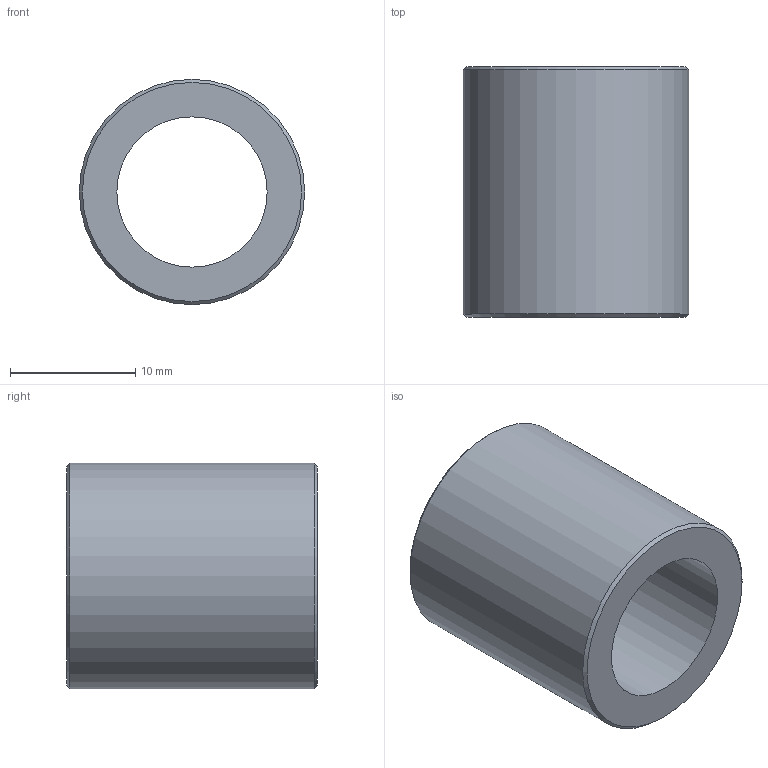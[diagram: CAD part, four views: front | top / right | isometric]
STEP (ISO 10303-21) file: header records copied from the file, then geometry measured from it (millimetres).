
FILE_DESCRIPTION(/* description */ ('','CAx-IF Rec.Pracs.---Representation and Presentation of Product Manufacturing Information (PMI)---4.0---2014-10-13'),/* implementation_level */ '2;1');
FILE_NAME(/* name */ 'Aluminium Spacer - 12mm - 20mm.step',/* time_stamp */ '2024-11-30T18:41:24+02:00',/* author */ (''),/* organization */ (''),/* preprocessor_version */ 'ST-DEVELOPER v20',/* originating_system */ 'Autodesk Translation Framework v13.20.0.188',/* authorisation */ '');
FILE_SCHEMA (('INTEGRATED_CNC_SCHEMA','AP242_MANAGED_MODEL_BASED_3D_ENGINEERING_MIM_LF { 1 0 10303 442 1 1 4 }'));
Length unit declared in the file: millimetre
Products named in the file (1): Aluminium Spacer - 12mm - 20mm
Bounding box: 18 x 20 x 18 mm (x, y, z)
Volume: 2823.9 mm3; surface area: 2151 mm2
Topology: 1 solids, 1 shells, 6 faces, 10 edges, 6 vertices
Faces by surface type: cone 2, cylinder 2, plane 2
Full cylindrical faces by diameter (mm): 12 x1, 18 x1
Entity records: 181 total; most frequent: DIRECTION 30, CARTESIAN_POINT 23, ORIENTED_EDGE 20, AXIS2_PLACEMENT_3D 13, EDGE_CURVE 10, EDGE_LOOP 8, FACE_OUTER_BOUND 6, CIRCLE 6
